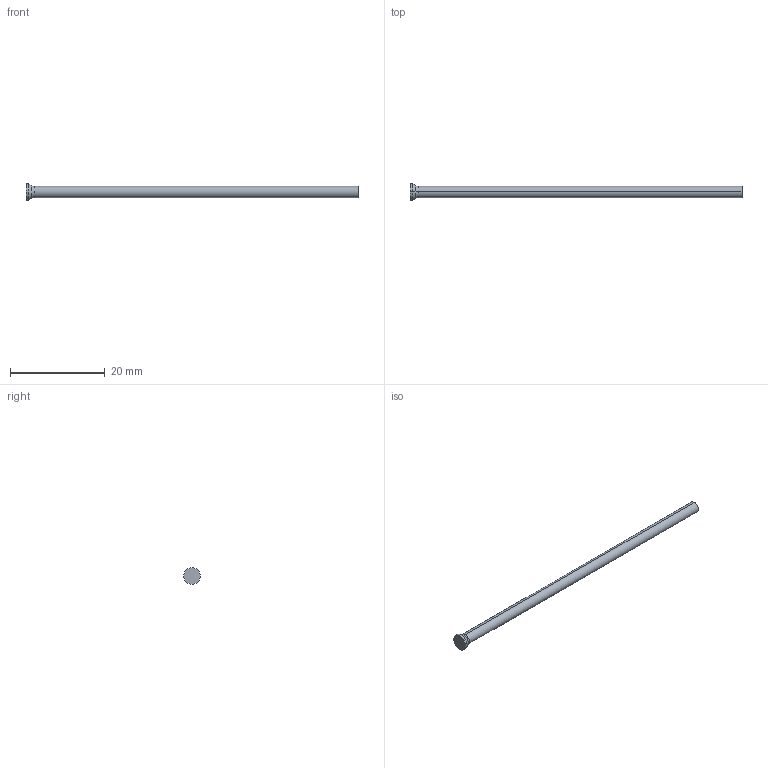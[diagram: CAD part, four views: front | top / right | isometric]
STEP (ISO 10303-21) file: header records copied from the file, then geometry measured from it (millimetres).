
FILE_DESCRIPTION (( 'STEP AP214' ), '1' );
FILE_NAME ('D-2,4x70.STEP', '2020-06-08T09:57:25', ( 'August' ), ( '' ), 'SwSTEP 2.0', 'SolidWorks 2018', '' );
FILE_SCHEMA (( 'AUTOMOTIVE_DESIGN' ));
Length unit declared in the file: millimetre
Products named in the file (1): D-2,4x70
Bounding box: 70 x 3.5 x 3.5 mm (x, y, z)
Volume: 321.5 mm3; surface area: 546.6 mm2
Topology: 1 solids, 1 shells, 10 faces, 18 edges, 10 vertices
Faces by surface type: cylinder 4, torus 2, cone 2, plane 2
Entity records: 280 total; most frequent: DIRECTION 52, CARTESIAN_POINT 39, ORIENTED_EDGE 36, AXIS2_PLACEMENT_3D 23, EDGE_CURVE 18, CIRCLE 12, ADVANCED_FACE 10, VERTEX_POINT 10
